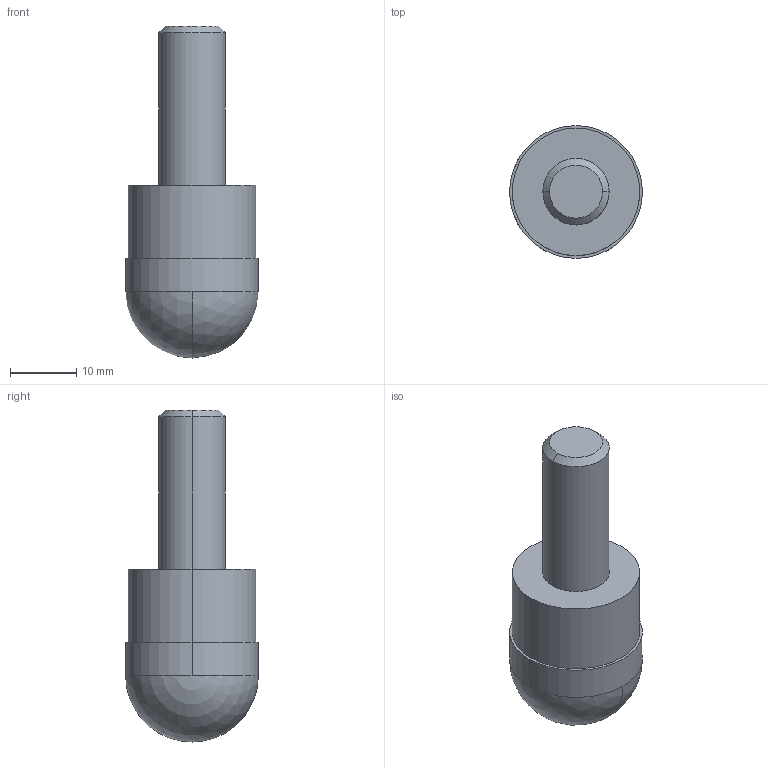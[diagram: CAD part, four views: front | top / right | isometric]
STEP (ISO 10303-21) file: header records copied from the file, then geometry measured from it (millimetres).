
FILE_DESCRIPTION (( 'STEP AP214' ), '1' );
FILE_NAME ('38.514.200_3D-model.step', '2022-02-15T20:48:13', ( '' ), ( '' ), 'SwSTEP 2.0', 'SolidWorks 2020', '' );
FILE_SCHEMA (( 'AUTOMOTIVE_DESIGN' ));
Length unit declared in the file: millimetre
Products named in the file (3): 38.514.200_3D-model; NOCUT-3D^Baugr137; CUT-3D^Baugr137
Assembly tree (2 placements, depth 2):
  38.514.200_3D-model
    CUT-3D^Baugr137
    NOCUT-3D^Baugr137
Bounding box: 20 x 20 x 50 mm (x, y, z)
Volume: 8720.3 mm3; surface area: 3233.5 mm2
Topology: 2 solids, 2 shells, 14 faces, 28 edges, 17 vertices
Faces by surface type: cylinder 6, plane 4, sphere 2, cone 2
Entity records: 482 total; most frequent: DIRECTION 88, CARTESIAN_POINT 65, ORIENTED_EDGE 52, AXIS2_PLACEMENT_3D 40, EDGE_CURVE 26, CIRCLE 18, VERTEX_POINT 17, EDGE_LOOP 15
